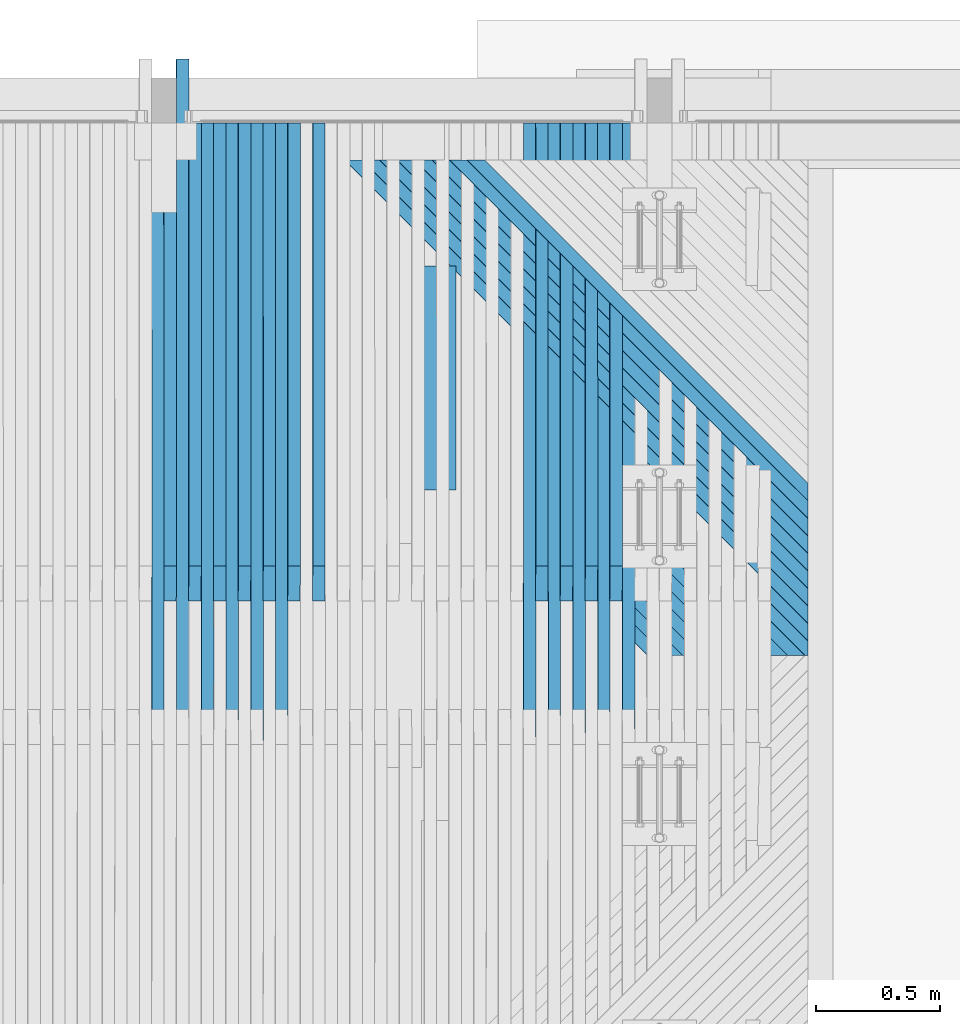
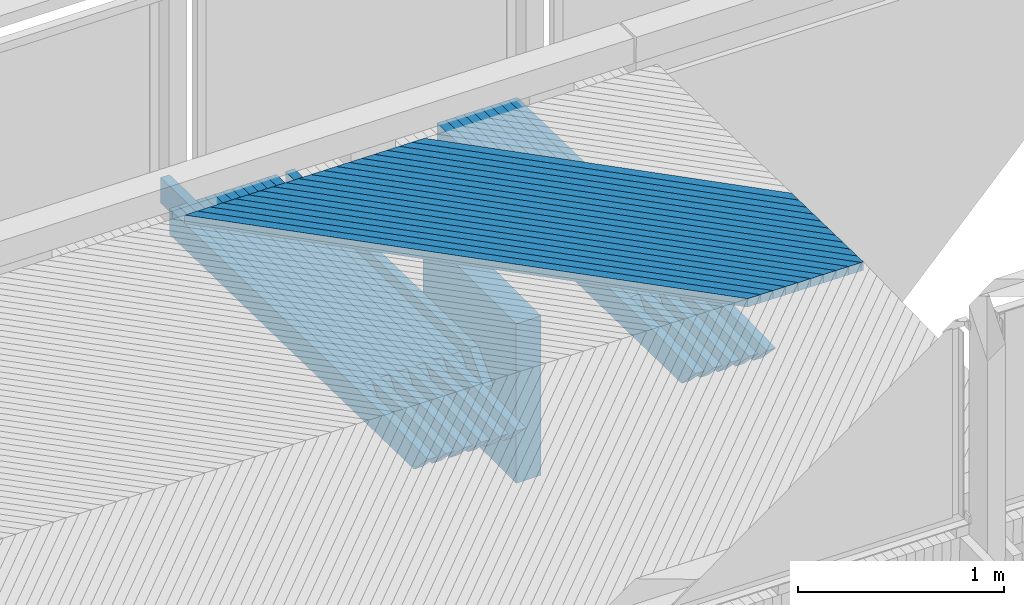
# One storey, part 45 of 65: 42 beams.
"""IFC2X3 building model written with IfcOpenShell, lengths in millimetres."""

from ifc_helpers import new_model, si_unit, frame, origin_with_axes, place, context, subcontext, project, spatial, faceted_brep, material, type_object, element, save


model = new_model("IFC2X3")

# Units and contexts
model_context = context("Model", 3, precision=1e-05, world=origin_with_axes())
body_context = subcontext(model_context, "Body", "Model", "MODEL_VIEW")
ifc_project = project(units=[si_unit("LENGTHUNIT", "METRE", prefix="MILLI"), si_unit("AREAUNIT", "SQUARE_METRE"), si_unit("VOLUMEUNIT", "CUBIC_METRE"), si_unit("MASSUNIT", "GRAM", prefix="KILO"), si_unit("TIMEUNIT", "SECOND"), si_unit("PLANEANGLEUNIT", "RADIAN"), si_unit("SOLIDANGLEUNIT", "STERADIAN"), si_unit("THERMODYNAMICTEMPERATUREUNIT", "DEGREE_CELSIUS"), si_unit("LUMINOUSINTENSITYUNIT", "LUMEN")], contexts=[model_context])

# Site, building, storey
site_placement = place(None, origin_with_axes())
site = spatial("IfcSite", under=ifc_project, at=site_placement, Name="Undefined", CompositionType="ELEMENT")
building_placement = place(site_placement, origin_with_axes())
building = spatial("IfcBuilding", under=site, at=building_placement, Name="Undefined", CompositionType="ELEMENT")
storey_placement = place(building_placement, origin_with_axes())
storey = spatial("IfcBuildingStorey", under=building, at=storey_placement, Name="Undefined", CompositionType="ELEMENT", Elevation=0.0)

# Beams
ifc_material = material(Name="TIMBER/Timber_Undefined")
beam_type_1 = type_object("IfcBeamType", Name="945*140", PredefinedType="NOTDEFINED")
beam_1_placement = place(storey_placement, frame((15109.0, 23937.5, 2500.4679002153), z_axis=(0.0, 0.0, 1.0), x_axis=(0.0, -1.0, 0.0)))
element("IfcBeam", 1, at=beam_1_placement, inside=storey, type_object=beam_type_1, material=ifc_material, Name="PALKKI", ObjectType="945*140", context=body_context, shape_type="Brep", body=[
    faceted_brep([(0.0, 70.0, -472.5), (0.0, 70.0, 472.5), (905.0, 70.0, 472.5), (905.0, 70.0, -472.5), (0.0, -70.0, 472.5), (905.0, -70.0, 472.5), (0.0, -70.0, -472.5), (905.0, -70.0, -472.5)], [[[0, 1, 2, 3]], [[1, 4, 5, 2]], [[4, 6, 7, 5]], [[6, 0, 3, 7]], [[5, 7, 3, 2]], [[6, 4, 1, 0]]]),
])
beam_type_2 = type_object("IfcBeamType", Name="50*50", PredefinedType="NOTDEFINED")
beam_2_placement = place(storey_placement, frame((17258.8677408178, 22365.4998996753, 3164.92933385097), z_axis=(0.706832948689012, 0.706981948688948, -0.0237425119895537), x_axis=(-0.707250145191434, 0.706948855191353, -0.00453302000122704)))
element("IfcBeam", 2, at=beam_2_placement, inside=storey, type_object=beam_type_2, material=ifc_material, Name="BEAM", ObjectType="50*50", context=body_context, shape_type="Brep", body=[
    faceted_brep([(2804.34067830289, -25.0, 25.0000000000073), (2854.34301907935, -24.9999999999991, -25.0000000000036), (2852.92877373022, 25.0000000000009, -25.0), (2802.92643296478, 25.0, 25.0), (957.056097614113, 24.9999999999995, 25.0000000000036), (956.096042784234, -25.0000000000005, 25.0000000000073), (906.125537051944, -25.0, -24.9999999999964), (907.085591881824, 24.9999999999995, -24.9999999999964)], [[[0, 1, 2, 3]], [[0, 3, 4, 5]], [[1, 0, 5, 6]], [[2, 1, 6, 7]], [[3, 2, 7, 4]], [[6, 5, 4, 7]]]),
])
beam_3_placement = place(storey_placement, frame((17188.1518059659, 22365.4998996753, 3166.01273338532), z_axis=(0.706835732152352, 0.706981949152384, -0.0236594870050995), x_axis=(-0.707249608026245, 0.706948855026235, -0.00461609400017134)))
element("IfcBeam", 3, at=beam_3_placement, inside=storey, type_object=beam_type_2, material=ifc_material, Name="BEAM", ObjectType="50*50", context=body_context, shape_type="Brep", body=[
    faceted_brep([(2804.34067830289, -25.0, 25.0000000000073), (2854.34301907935, -24.9999999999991, -25.0000000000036), (2852.92877373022, 25.0000000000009, -25.0), (2802.92643296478, 25.0, 25.0), (857.065534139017, 25.0000000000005, 24.9999999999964), (856.1137801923, -24.9999999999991, 24.9999999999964), (806.143039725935, -24.9999999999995, -25.0), (807.094793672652, 25.0, -25.0)], [[[0, 1, 2, 3]], [[0, 3, 4, 5]], [[1, 0, 5, 6]], [[2, 1, 6, 7]], [[3, 2, 7, 4]], [[6, 5, 4, 7]]]),
])
beam_4_placement = place(storey_placement, frame((17117.4357443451, 22365.4998996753, 3167.08782657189), z_axis=(0.706838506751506, 0.706981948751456, -0.0235764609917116), x_axis=(-0.707249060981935, 0.706948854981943, -0.00469916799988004)))
element("IfcBeam", 4, at=beam_4_placement, inside=storey, type_object=beam_type_2, material=ifc_material, Name="BEAM", ObjectType="50*50", context=body_context, shape_type="Brep", body=[
    faceted_brep([(2804.34067830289, -25.0, 25.0000000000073), (2854.34301907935, -24.9999999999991, -25.0000000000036), (2852.92877373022, 25.0000000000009, -25.0), (2802.92643296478, 25.0, 25.0), (757.074649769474, 25.0000000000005, 25.0000000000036), (756.131196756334, -25.0, 25.0000000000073), (706.160221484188, -24.9999999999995, -24.9999999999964), (707.103674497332, 25.0000000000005, -25.0)], [[[0, 1, 2, 3]], [[0, 3, 4, 5]], [[1, 0, 5, 6]], [[2, 1, 6, 7]], [[3, 2, 7, 4]], [[6, 5, 4, 7]]]),
])
beam_5_placement = place(storey_placement, frame((17046.7195569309, 22365.4998996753, 3168.15461339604), z_axis=(0.706841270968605, 0.706981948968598, -0.0234934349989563), x_axis=(-0.707248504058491, 0.706948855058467, -0.00478224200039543)))
element("IfcBeam", 5, at=beam_5_placement, inside=storey, type_object=beam_type_2, material=ifc_material, Name="BEAM", ObjectType="50*50", context=body_context, shape_type="Brep", body=[
    faceted_brep([(2804.34067830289, -25.0, 25.0000000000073), (2854.34301907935, -24.9999999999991, -25.0000000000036), (2852.92877373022, 25.0000000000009, -25.0), (2802.92643296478, 25.0, 25.0), (657.083441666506, 24.9999999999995, 24.9999999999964), (656.148289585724, -25.0, 24.9999999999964), (606.177079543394, -25.0, -25.0), (607.112231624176, 25.0, -25.0)], [[[0, 1, 2, 3]], [[0, 3, 4, 5]], [[1, 0, 5, 6]], [[2, 1, 6, 7]], [[3, 2, 7, 4]], [[6, 5, 4, 7]]]),
])
beam_6_placement = place(storey_placement, frame((16976.0032446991, 22365.4998996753, 3169.21309384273), z_axis=(0.70684402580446, 0.706981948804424, -0.0234104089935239), x_axis=(-0.707247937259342, 0.706948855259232, -0.00486531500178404)))
element("IfcBeam", 6, at=beam_6_placement, inside=storey, type_object=beam_type_2, material=ifc_material, Name="BEAM", ObjectType="50*50", context=body_context, shape_type="Brep", body=[
    faceted_brep([(2804.34067830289, -25.0, 25.0000000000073), (2854.34301907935, -24.9999999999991, -25.0000000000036), (2852.92877373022, 25.0000000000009, -25.0), (2802.92643296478, 25.0, 25.0), (557.091907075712, 25.0, 25.0), (556.165055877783, -25.0, 25.0000000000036), (506.193611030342, -25.0, -24.9999999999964), (507.120462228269, 25.0, -24.9999999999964)], [[[0, 1, 2, 3]], [[0, 3, 4, 5]], [[1, 0, 5, 6]], [[2, 1, 6, 7]], [[3, 2, 7, 4]], [[6, 5, 4, 7]]]),
])
beam_7_placement = place(storey_placement, frame((16905.2868086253, 22365.4998996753, 3170.26326789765), z_axis=(0.706846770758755, 0.70698194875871, -0.0233273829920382), x_axis=(-0.707247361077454, 0.706948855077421, -0.00494838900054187)))
element("IfcBeam", 7, at=beam_7_placement, inside=storey, type_object=beam_type_2, material=ifc_material, Name="BEAM", ObjectType="50*50", context=body_context, shape_type="Brep", body=[
    faceted_brep([(2804.34067830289, -25.0, 25.0000000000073), (2854.34301907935, -24.9999999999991, -25.0000000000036), (2852.92877373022, 25.0000000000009, -25.0), (2802.92643296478, 25.0, 25.0), (457.100042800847, 25.0000000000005, 25.0), (456.181492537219, -25.0, 25.0), (406.209812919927, -24.9999999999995, -25.0), (407.128363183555, 25.0000000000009, -25.0)], [[[0, 1, 2, 3]], [[0, 3, 4, 5]], [[1, 0, 5, 6]], [[2, 1, 6, 7]], [[3, 2, 7, 4]], [[6, 5, 4, 7]]]),
])
beam_8_placement = place(storey_placement, frame((16834.5702496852, 22365.4998996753, 3171.30513554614), z_axis=(0.706849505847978, 0.706981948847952, -0.023244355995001), x_axis=(-0.707246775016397, 0.70694885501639, -0.00503146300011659)))
element("IfcBeam", 8, at=beam_8_placement, inside=storey, type_object=beam_type_2, material=ifc_material, Name="BEAM", ObjectType="50*50", context=body_context, shape_type="Brep", body=[
    faceted_brep([(2804.34067830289, -25.0, 25.0000000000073), (2854.34301907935, -24.9999999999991, -25.0000000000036), (2852.92877373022, 25.0000000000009, -25.0), (2802.92643296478, 25.0, 25.0), (357.107846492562, 24.9999999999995, 24.9999999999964), (356.19759721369, -25.0000000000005, 24.9999999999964), (306.225682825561, -25.0000000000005, -25.0000000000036), (307.135932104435, 24.9999999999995, -25.0000000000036)], [[[0, 1, 2, 3]], [[0, 3, 4, 5]], [[1, 0, 5, 6]], [[2, 1, 6, 7]], [[3, 2, 7, 4]], [[6, 5, 4, 7]]]),
])
beam_9_placement = place(storey_placement, frame((16763.8535688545, 22365.4998996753, 3172.33869677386), z_axis=(0.706852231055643, 0.706981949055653, -0.0231613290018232), x_axis=(-0.707246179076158, 0.706948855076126, -0.0051145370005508)))
element("IfcBeam", 9, at=beam_9_placement, inside=storey, type_object=beam_type_2, material=ifc_material, Name="BEAM", ObjectType="50*50", context=body_context, shape_type="Brep", body=[
    faceted_brep([(2804.34067830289, -25.0, 25.0000000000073), (2854.34301907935, -24.9999999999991, -25.0000000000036), (2852.92877373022, 25.0000000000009, -25.0), (2802.92643296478, 25.0, 25.0), (257.115315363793, 25.0, 25.0), (256.213367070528, -25.0000000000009, 24.9999999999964), (206.241217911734, -25.0000000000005, -25.0), (207.143166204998, 25.0, -25.0)], [[[0, 1, 2, 3]], [[0, 3, 4, 5]], [[1, 0, 5, 6]], [[2, 1, 6, 7]], [[3, 2, 7, 4]], [[6, 5, 4, 7]]]),
])
beam_10_placement = place(storey_placement, frame((16693.1367671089, 22365.4998996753, 3173.36395156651), z_axis=(0.706854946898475, 0.706981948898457, -0.0230783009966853), x_axis=(-0.7072455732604, 0.706948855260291, -0.00519761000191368)))
element("IfcBeam", 10, at=beam_10_placement, inside=storey, type_object=beam_type_2, material=ifc_material, Name="BEAM", ObjectType="50*50", context=body_context, shape_type="Brep", body=[
    faceted_brep([(2804.34067830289, -25.0, 25.0000000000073), (2854.34301907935, -24.9999999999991, -25.0000000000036), (2852.92877373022, 25.0000000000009, -25.0), (2802.92643296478, 25.0, 25.0), (157.122446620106, 25.0000000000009, 24.9999999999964), (156.22879931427, -24.9999999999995, 25.0000000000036), (106.256415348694, -25.0, -25.0), (107.15006265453, 25.0, -24.9999999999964)], [[[0, 1, 2, 3]], [[0, 3, 4, 5]], [[1, 0, 5, 6]], [[2, 1, 6, 7]], [[3, 2, 7, 4]], [[6, 5, 4, 7]]]),
])
beam_11_placement = place(storey_placement, frame((16622.419845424, 22365.4998996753, 3174.38089991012), z_axis=(0.70685765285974, 0.706981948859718, -0.0229952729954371), x_axis=(-0.707244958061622, 0.706948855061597, -0.00528068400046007)))
element("IfcBeam", 11, at=beam_11_placement, inside=storey, type_object=beam_type_2, material=ifc_material, Name="BEAM", ObjectType="50*50", context=body_context, shape_type="Brep", body=[
    faceted_brep([(25.0011701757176, -25.0000000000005, -24.9999999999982), (23.5869248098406, 24.9999999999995, -24.9999999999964), (2852.92877373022, 25.0000000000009, -25.0), (2854.34301907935, -24.9999999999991, -25.0000000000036), (2804.34067830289, -25.0, 25.0000000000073), (2802.92643296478, 25.0, 25.0), (57.1292373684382, 25.0000000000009, 25.0000000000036), (56.2438911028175, -24.9999999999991, 25.0000000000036), (15.6334371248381, -24.9999999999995, -15.6327054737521), (15.3693294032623, 25.0000000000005, -16.7827892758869)], [[[0, 1, 2, 3]], [[4, 3, 2, 5]], [[4, 5, 6, 7]], [[0, 3, 4, 7, 8]], [[1, 0, 8, 9]], [[5, 2, 1, 9, 6]], [[8, 7, 6, 9]]]),
])
for number, where, z_axis, x_axis, name in (
    (12, (16551.7028047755, 22365.4998996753, 3175.38954179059), (0.706860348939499, 0.70698194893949, -0.0229122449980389), (-0.707244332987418, 0.706948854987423, -0.00536375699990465), "BEAM"),
    (13, (16480.9856461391, 22365.4998996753, 3176.38987719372), (0.706863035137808, 0.706981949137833, -0.0228292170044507), (-0.707243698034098, 0.706948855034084, -0.00544683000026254), "BEAM"),
    (14, (16410.2683704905, 22365.4998996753, 3177.38190610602), (0.706865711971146, 0.706981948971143, -0.0227461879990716), (-0.707243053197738, 0.706948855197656, -0.00552990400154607), "BEAM"),
    (15, (16339.5509788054, 22365.4998996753, 3178.36562851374), (0.706868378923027, 0.706981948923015, -0.0226631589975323), (-0.707242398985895, 0.7069488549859, -0.00561297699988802), "BEAM"),
    (16, (16268.8334720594, 22365.4998996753, 3179.34104440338), (0.706871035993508, 0.706981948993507, -0.0225801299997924), (-0.707241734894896, 0.706948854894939, -0.00569604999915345), "BEAM"),
    (17, (16198.1158512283, 22365.4998996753, 3180.30815376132), (0.706873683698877, 0.706981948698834, -0.0224970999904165), (-0.707241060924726, 0.706948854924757, -0.00577912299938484), "BEAM"),
    (18, (16127.3981172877, 22365.4998996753, 3181.26695657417), (0.706876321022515, 0.706981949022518, -0.0224140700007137), (-0.707240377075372, 0.706948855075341, -0.00586219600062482), "BEAM"),
    (19, (16056.6802712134, 22365.4998996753, 3182.21745282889), (0.706878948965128, 0.706981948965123, -0.0223310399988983), (-0.70723968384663, 0.706948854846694, -0.00594526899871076), "BEAM"),
    (20, (15985.962313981, 22365.4998996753, 3183.15964251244), (0.706881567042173, 0.706981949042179, -0.0222480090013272), (-0.707238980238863, 0.706948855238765, -0.00602834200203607), "BEAM"),
):
    element("IfcBeam", number, at=place(storey_placement, frame(where, z_axis=z_axis, x_axis=x_axis)), inside=storey, type_object=beam_type_2, material=ifc_material, Name=name, ObjectType="50*50", context=body_context, shape_type="Brep", body=[
        faceted_brep([(23.5869248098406, 24.9999999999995, -24.9999999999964), (-26.4154158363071, 24.9999999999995, 24.9999999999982), (2802.92643296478, 25.0, 25.0), (2852.92877373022, 25.0000000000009, -25.0), (-25.0011704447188, -25.0, 24.9999999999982), (2804.34067830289, -25.0, 25.0000000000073), (25.0011701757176, -25.0000000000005, -24.9999999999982), (2854.34301907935, -24.9999999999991, -25.0000000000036)], [[[0, 1, 2, 3]], [[1, 4, 5, 2]], [[4, 6, 7, 5]], [[6, 0, 3, 7]], [[5, 7, 3, 2]], [[6, 4, 1, 0]]]),
    ])
beam_type_3 = type_object("IfcBeamType", Name="150*50", PredefinedType="NOTDEFINED")
for number, where, z_axis, x_axis, name in (
    (21, (15874.7290061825, 24513.4953923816, 3041.62863633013), (0.0130016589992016, 0.0199960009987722, 0.999715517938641), (0.000260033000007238, -0.999800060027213, 0.0199943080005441), "BEAM"),
    (22, (15774.717424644, 24513.4953923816, 3042.92875591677), (0.0128355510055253, 0.019996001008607, 0.999717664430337), (0.000256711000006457, -0.999800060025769, 0.0199943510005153), "BEAM"),
):
    element("IfcBeam", number, at=place(storey_placement, frame(where, z_axis=z_axis, x_axis=x_axis)), inside=storey, type_object=beam_type_3, material=ifc_material, Name=name, ObjectType="150*50", context=body_context, shape_type="Brep", body=[
        faceted_brep([(-1.6778358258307e-07, -24.9999999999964, -74.9999999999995), (-1.6778358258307e-07, 25.0000000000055, -75.0), (2375.00494422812, 25.0000000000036, -75.0), (2375.00494447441, -24.9999999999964, -74.9999999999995), (1.67790858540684e-07, -24.9999999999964, 75.0000000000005), (1.67790858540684e-07, 25.0000000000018, 74.9999999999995), (2150.42515052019, 25.0000000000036, 74.9999999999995), (2510.59248715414, 25.0000000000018, 60.5875433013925), (2510.59248714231, -24.9999999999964, 60.5875430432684), (2150.42514405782, -24.9999999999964, 75.0000000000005)], [[[0, 1, 2, 3]], [[0, 4, 5, 1]], [[2, 1, 5, 6, 7]], [[3, 2, 7, 8]], [[4, 0, 3, 8, 9]], [[5, 4, 9, 6]], [[8, 7, 6, 9]]]),
    ])
beam_12_placement = place(storey_placement, frame((15824.7332279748, 24513.4953923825, 3042.27828425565), z_axis=(0.0130016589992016, 0.0199960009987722, 0.999715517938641), x_axis=(0.000260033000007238, -0.999800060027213, 0.0199943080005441)))
element("IfcBeam", 23, at=beam_12_placement, inside=storey, type_object=beam_type_3, material=ifc_material, Name="BEAM", ObjectType="150*50", context=body_context, shape_type="Brep", body=[
    faceted_brep([(-1.6778358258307e-07, -24.9999999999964, -74.9999999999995), (1.67790858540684e-07, -24.9999999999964, 75.0000000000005), (1.67790858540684e-07, 25.0000000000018, 74.9999999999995), (-1.6778358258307e-07, 25.0000000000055, -75.0), (1789.96936408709, 24.9999999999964, 75.0), (1928.42646328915, 24.9999999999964, -75.0), (1928.42646353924, -25.0, -75.0000000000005), (1789.96936433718, -25.0000000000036, 74.9999999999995)], [[[0, 1, 2, 3]], [[3, 2, 4, 5]], [[0, 3, 5, 6]], [[1, 0, 6, 7]], [[2, 1, 7, 4]], [[5, 4, 7, 6]]]),
])
beam_13_placement = place(storey_placement, frame((15674.7056284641, 24513.4953923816, 3044.21225802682), z_axis=(0.012669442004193, 0.0199960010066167, 0.999719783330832), x_axis=(0.000253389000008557, -0.99980006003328, 0.0199943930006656)))
element("IfcBeam", 24, at=beam_13_placement, inside=storey, type_object=beam_type_3, material=ifc_material, Name="BEAM", ObjectType="150*50", context=body_context, shape_type="Brep", body=[
    faceted_brep([(-1.6778358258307e-07, -24.9999999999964, -74.9999999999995), (-1.6778358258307e-07, 25.0000000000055, -75.0), (2375.00494422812, 25.0000000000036, -75.0), (2375.00494447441, -24.9999999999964, -74.9999999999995), (1.67790858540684e-07, -24.9999999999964, 75.0000000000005), (1.67790858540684e-07, 25.0000000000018, 74.9999999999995), (2150.42515052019, 25.0000000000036, 74.9999999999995), (2510.59248715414, 25.0000000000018, 60.5875433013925), (2510.59248714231, -24.9999999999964, 60.5875430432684), (2150.42514405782, -24.9999999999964, 75.0000000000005)], [[[0, 1, 2, 3]], [[0, 4, 5, 1]], [[2, 1, 5, 6, 7]], [[3, 2, 7, 8]], [[4, 0, 3, 8, 9]], [[5, 4, 9, 6]], [[8, 7, 6, 9]]]),
])
beam_14_placement = place(storey_placement, frame((15724.7215391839, 24513.4953923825, 3043.57009676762), z_axis=(0.0128355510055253, 0.019996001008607, 0.999717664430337), x_axis=(0.000256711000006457, -0.999800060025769, 0.0199943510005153)))
element("IfcBeam", 25, at=beam_14_placement, inside=storey, type_object=beam_type_3, material=ifc_material, Name="BEAM", ObjectType="150*50", context=body_context, shape_type="Brep", body=[
    faceted_brep([(-1.6778358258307e-07, -24.9999999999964, -74.9999999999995), (1.67790858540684e-07, -24.9999999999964, 75.0000000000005), (1.67790858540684e-07, 25.0000000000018, 74.9999999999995), (-1.6778358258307e-07, 25.0000000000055, -75.0), (1789.96936408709, 24.9999999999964, 75.0), (1928.42646328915, 24.9999999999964, -75.0), (1928.42646353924, -25.0, -75.0000000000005), (1789.96936433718, -25.0000000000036, 74.9999999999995)], [[[0, 1, 2, 3]], [[3, 2, 4, 5]], [[0, 3, 5, 6]], [[1, 0, 6, 7]], [[2, 1, 7, 4]], [[5, 4, 7, 6]]]),
])
beam_15_placement = place(storey_placement, frame((15574.6936204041, 24513.4953923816, 3045.47914262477), z_axis=(0.0125033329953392, 0.0199960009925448, 0.999721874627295), x_axis=(0.000250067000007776, -0.999800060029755, 0.0199944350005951)))
element("IfcBeam", 26, at=beam_15_placement, inside=storey, type_object=beam_type_3, material=ifc_material, Name="BEAM", ObjectType="150*50", context=body_context, shape_type="Brep", body=[
    faceted_brep([(-1.6778358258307e-07, -24.9999999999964, -74.9999999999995), (-1.6778358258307e-07, 25.0000000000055, -75.0), (2375.00494422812, 25.0000000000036, -75.0), (2375.00494447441, -24.9999999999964, -74.9999999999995), (1.67790858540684e-07, -24.9999999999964, 75.0000000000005), (1.67790858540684e-07, 25.0000000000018, 74.9999999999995), (2150.42515052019, 25.0000000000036, 74.9999999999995), (2510.59248715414, 25.0000000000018, 60.5875433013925), (2510.59248714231, -24.9999999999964, 60.5875430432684), (2150.42514405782, -24.9999999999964, 75.0000000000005)], [[[0, 1, 2, 3]], [[0, 4, 5, 1]], [[2, 1, 5, 6, 7]], [[3, 2, 7, 8]], [[4, 0, 3, 8, 9]], [[5, 4, 9, 6]], [[8, 7, 6, 9]]]),
])
beam_16_placement = place(storey_placement, frame((15624.7096371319, 24513.4953923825, 3044.8452917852), z_axis=(0.012669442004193, 0.0199960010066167, 0.999719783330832), x_axis=(0.000253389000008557, -0.99980006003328, 0.0199943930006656)))
element("IfcBeam", 27, at=beam_16_placement, inside=storey, type_object=beam_type_3, material=ifc_material, Name="BEAM", ObjectType="150*50", context=body_context, shape_type="Brep", body=[
    faceted_brep([(-1.6778358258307e-07, -24.9999999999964, -74.9999999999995), (1.67790858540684e-07, -24.9999999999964, 75.0000000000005), (1.67790858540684e-07, 25.0000000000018, 74.9999999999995), (-1.6778358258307e-07, 25.0000000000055, -75.0), (1789.96936408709, 24.9999999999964, 75.0), (1928.42646328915, 24.9999999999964, -75.0), (1928.42646353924, -25.0, -75.0000000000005), (1789.96936433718, -25.0000000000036, 74.9999999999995)], [[[0, 1, 2, 3]], [[3, 2, 4, 5]], [[0, 3, 5, 6]], [[1, 0, 6, 7]], [[2, 1, 7, 4]], [[5, 4, 7, 6]]]),
])
beam_17_placement = place(storey_placement, frame((15474.6814032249, 24513.4953923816, 3046.72940967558), z_axis=(0.0123372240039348, 0.0199960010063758, 0.999723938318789), x_axis=(0.000246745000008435, -0.999800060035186, 0.0199944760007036)))
element("IfcBeam", 28, at=beam_17_placement, inside=storey, type_object=beam_type_3, material=ifc_material, Name="BEAM", ObjectType="150*50", context=body_context, shape_type="Brep", body=[
    faceted_brep([(-1.6778358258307e-07, -24.9999999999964, -74.9999999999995), (-1.6778358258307e-07, 25.0000000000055, -75.0), (2375.00494422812, 25.0000000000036, -75.0), (2375.00494447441, -24.9999999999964, -74.9999999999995), (1.67790858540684e-07, -24.9999999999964, 75.0000000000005), (1.67790858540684e-07, 25.0000000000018, 74.9999999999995), (2150.42515052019, 25.0000000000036, 74.9999999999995), (2510.59248715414, 25.0000000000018, 60.5875433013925), (2510.59248714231, -24.9999999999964, 60.5875430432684), (2150.42514405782, -24.9999999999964, 75.0000000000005)], [[[0, 1, 2, 3]], [[0, 4, 5, 1]], [[2, 1, 5, 6, 7]], [[3, 2, 7, 8]], [[4, 0, 3, 8, 9]], [[5, 4, 9, 6]], [[8, 7, 6, 9]]]),
])
for number, where, z_axis, x_axis, name in (
    (29, (15524.6975245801, 24513.4953923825, 3046.10386927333), (0.0125033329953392, 0.0199960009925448, 0.999721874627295), (0.000250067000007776, -0.999800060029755, 0.0199944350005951), "BEAM"),
    (30, (14624.5794946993, 24513.4953923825, 3056.68327225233), (0.0110083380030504, 0.0199960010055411, 0.999739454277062), (0.000220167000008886, -0.999800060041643, 0.0199947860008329), "BEAM"),
):
    element("IfcBeam", number, at=place(storey_placement, frame(where, z_axis=z_axis, x_axis=x_axis)), inside=storey, type_object=beam_type_3, material=ifc_material, Name=name, ObjectType="150*50", context=body_context, shape_type="Brep", body=[
        faceted_brep([(-1.6778358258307e-07, -24.9999999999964, -74.9999999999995), (1.67790858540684e-07, -24.9999999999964, 75.0000000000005), (1.67790858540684e-07, 25.0000000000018, 74.9999999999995), (-1.6778358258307e-07, 25.0000000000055, -75.0), (1789.96936408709, 24.9999999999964, 75.0), (1928.42646328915, 24.9999999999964, -75.0), (1928.42646353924, -25.0, -75.0000000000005), (1789.96936433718, -25.0000000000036, 74.9999999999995)], [[[0, 1, 2, 3]], [[3, 2, 4, 5]], [[0, 3, 5, 6]], [[1, 0, 6, 7]], [[2, 1, 7, 4]], [[5, 4, 7, 6]]]),
    ])
beam_18_placement = place(storey_placement, frame((14474.5483373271, 24513.4953923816, 3058.31810772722), z_axis=(0.0106761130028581, 0.0199960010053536, 0.999743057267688), x_axis=(0.000213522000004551, -0.999800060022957, 0.0199948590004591)))
element("IfcBeam", 31, at=beam_18_placement, inside=storey, type_object=beam_type_3, material=ifc_material, Name="BEAM", ObjectType="150*50", context=body_context, shape_type="Brep", body=[
    faceted_brep([(-1.6778358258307e-07, -24.9999999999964, -74.9999999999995), (-1.6778358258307e-07, 25.0000000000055, -75.0), (2375.00494422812, 25.0000000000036, -75.0), (2375.00494447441, -24.9999999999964, -74.9999999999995), (1.67790858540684e-07, -24.9999999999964, 75.0000000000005), (1.67790858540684e-07, 25.0000000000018, 74.9999999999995), (2150.42515052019, 25.0000000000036, 74.9999999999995), (2510.59248715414, 25.0000000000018, 60.5875433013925), (2510.59248714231, -24.9999999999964, 60.5875430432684), (2150.42514405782, -24.9999999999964, 75.0000000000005)], [[[0, 1, 2, 3]], [[0, 4, 5, 1]], [[2, 1, 5, 6, 7]], [[3, 2, 7, 8]], [[4, 0, 3, 8, 9]], [[5, 4, 9, 6]], [[8, 7, 6, 9]]]),
])
beam_19_placement = place(storey_placement, frame((14524.5654290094, 24513.4953923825, 3057.77567260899), z_axis=(0.0108422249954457, 0.0199960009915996, 0.999741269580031), x_axis=(0.000216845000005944, -0.999800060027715, 0.0199948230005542)))
element("IfcBeam", 32, at=beam_19_placement, inside=storey, type_object=beam_type_3, material=ifc_material, Name="BEAM", ObjectType="150*50", context=body_context, shape_type="Brep", body=[
    faceted_brep([(-1.6778358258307e-07, -24.9999999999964, -74.9999999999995), (1.67790858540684e-07, -24.9999999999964, 75.0000000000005), (1.67790858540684e-07, 25.0000000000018, 74.9999999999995), (-1.6778358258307e-07, 25.0000000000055, -75.0), (1789.96936408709, 24.9999999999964, 75.0), (1928.42646328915, 24.9999999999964, -75.0), (1928.42646353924, -25.0, -75.0000000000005), (1789.96936433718, -25.0000000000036, 74.9999999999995)], [[[0, 1, 2, 3]], [[3, 2, 4, 5]], [[0, 3, 5, 6]], [[1, 0, 6, 7]], [[2, 1, 7, 4]], [[5, 4, 7, 6]]]),
])
beam_20_placement = place(storey_placement, frame((14374.5340020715, 24513.4953923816, 3059.38557958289), z_axis=(0.0105100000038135, 0.0199960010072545, 0.99974481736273), x_axis=(0.000210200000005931, -0.999800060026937, 0.0199948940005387)))
element("IfcBeam", 33, at=beam_20_placement, inside=storey, type_object=beam_type_3, material=ifc_material, Name="BEAM", ObjectType="150*50", context=body_context, shape_type="Brep", body=[
    faceted_brep([(-1.6778358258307e-07, -24.9999999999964, -74.9999999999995), (-1.6778358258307e-07, 25.0000000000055, -75.0), (2375.00494422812, 25.0000000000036, -75.0), (2375.00494447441, -24.9999999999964, -74.9999999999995), (1.67790858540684e-07, -24.9999999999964, 75.0000000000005), (1.67790858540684e-07, 25.0000000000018, 74.9999999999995), (2150.42515052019, 25.0000000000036, 74.9999999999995), (2510.59248715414, 25.0000000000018, 60.5875433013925), (2510.59248714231, -24.9999999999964, 60.5875430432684), (2150.42514405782, -24.9999999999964, 75.0000000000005)], [[[0, 1, 2, 3]], [[0, 4, 5, 1]], [[2, 1, 5, 6, 7]], [[3, 2, 7, 8]], [[4, 0, 3, 8, 9]], [[5, 4, 9, 6]], [[8, 7, 6, 9]]]),
])
beam_21_placement = place(storey_placement, frame((14424.5511831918, 24513.4953923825, 3058.85145507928), z_axis=(0.0106761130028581, 0.0199960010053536, 0.999743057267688), x_axis=(0.000213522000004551, -0.999800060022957, 0.0199948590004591)))
element("IfcBeam", 34, at=beam_21_placement, inside=storey, type_object=beam_type_3, material=ifc_material, Name="BEAM", ObjectType="150*50", context=body_context, shape_type="Brep", body=[
    faceted_brep([(-1.6778358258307e-07, -24.9999999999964, -74.9999999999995), (1.67790858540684e-07, -24.9999999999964, 75.0000000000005), (1.67790858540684e-07, 25.0000000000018, 74.9999999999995), (-1.6778358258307e-07, 25.0000000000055, -75.0), (1789.96936408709, 24.9999999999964, 75.0), (1928.42646328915, 24.9999999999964, -75.0), (1928.42646353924, -25.0, -75.0000000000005), (1789.96936433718, -25.0000000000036, 74.9999999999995)], [[[0, 1, 2, 3]], [[3, 2, 4, 5]], [[0, 3, 5, 6]], [[1, 0, 6, 7]], [[2, 1, 7, 4]], [[5, 4, 7, 6]]]),
])
beam_22_placement = place(storey_placement, frame((14274.5194908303, 24513.4953923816, 3060.43643350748), z_axis=(0.010343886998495, 0.0199960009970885, 0.999746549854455), x_axis=(0.000206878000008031, -0.999800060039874, 0.0199949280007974)))
element("IfcBeam", 35, at=beam_22_placement, inside=storey, type_object=beam_type_3, material=ifc_material, Name="BEAM", ObjectType="150*50", context=body_context, shape_type="Brep", body=[
    faceted_brep([(-1.6778358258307e-07, -24.9999999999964, -74.9999999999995), (-1.6778358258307e-07, 25.0000000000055, -75.0), (2375.00494422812, 25.0000000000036, -75.0), (2375.00494447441, -24.9999999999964, -74.9999999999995), (1.67790858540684e-07, -24.9999999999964, 75.0000000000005), (1.67790858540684e-07, 25.0000000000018, 74.9999999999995), (2150.42515052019, 25.0000000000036, 74.9999999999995), (2510.59248715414, 25.0000000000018, 60.5875433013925), (2510.59248714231, -24.9999999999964, 60.5875430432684), (2150.42514405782, -24.9999999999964, 75.0000000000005)], [[[0, 1, 2, 3]], [[0, 4, 5, 1]], [[2, 1, 5, 6, 7]], [[3, 2, 7, 8]], [[4, 0, 3, 8, 9]], [[5, 4, 9, 6]], [[8, 7, 6, 9]]]),
])
beam_23_placement = place(storey_placement, frame((14324.5367600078, 24513.4953923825, 3059.91061963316), z_axis=(0.0105100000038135, 0.0199960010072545, 0.99974481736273), x_axis=(0.000210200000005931, -0.999800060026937, 0.0199948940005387)))
element("IfcBeam", 36, at=beam_23_placement, inside=storey, type_object=beam_type_3, material=ifc_material, Name="BEAM", ObjectType="150*50", context=body_context, shape_type="Brep", body=[
    faceted_brep([(-1.6778358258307e-07, -24.9999999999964, -74.9999999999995), (1.67790858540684e-07, -24.9999999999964, 75.0000000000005), (1.67790858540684e-07, 25.0000000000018, 74.9999999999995), (-1.6778358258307e-07, 25.0000000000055, -75.0), (1789.96936408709, 24.9999999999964, 75.0), (1928.42646328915, 24.9999999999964, -75.0), (1928.42646353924, -25.0, -75.0000000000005), (1789.96936433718, -25.0000000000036, 74.9999999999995)], [[[0, 1, 2, 3]], [[3, 2, 4, 5]], [[0, 3, 5, 6]], [[1, 0, 6, 7]], [[2, 1, 7, 4]], [[5, 4, 7, 6]]]),
])
beam_24_placement = place(storey_placement, frame((14174.5048063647, 24513.4953923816, 3061.47066947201), z_axis=(0.0101777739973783, 0.0199960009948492, 0.999748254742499), x_axis=(0.00020355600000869, -0.999800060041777, 0.0199949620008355)))
element("IfcBeam", 37, at=beam_24_placement, inside=storey, type_object=beam_type_3, material=ifc_material, Name="BEAM", ObjectType="150*50", context=body_context, shape_type="Brep", body=[
    faceted_brep([(-1.6778358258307e-07, -24.9999999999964, -74.9999999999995), (-1.6778358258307e-07, 25.0000000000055, -75.0), (2375.00494422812, 25.0000000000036, -75.0), (2375.00494447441, -24.9999999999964, -74.9999999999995), (1.67790858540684e-07, -24.9999999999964, 75.0000000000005), (1.67790858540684e-07, 25.0000000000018, 74.9999999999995), (2150.42515052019, 25.0000000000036, 74.9999999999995), (2510.59248715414, 25.0000000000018, 60.5875433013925), (2510.59248714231, -24.9999999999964, 60.5875430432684), (2150.42514405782, -24.9999999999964, 75.0000000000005)], [[[0, 1, 2, 3]], [[0, 4, 5, 1]], [[2, 1, 5, 6, 7]], [[3, 2, 7, 8]], [[4, 0, 3, 8, 9]], [[5, 4, 9, 6]], [[8, 7, 6, 9]]]),
])
for number, where, z_axis, x_axis, name in (
    (38, (14224.5221622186, 24513.4953923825, 3060.95316624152), (0.010343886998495, 0.0199960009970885, 0.999746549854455), (0.000206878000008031, -0.999800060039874, 0.0199949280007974), "BEAM"),
    (39, (14124.5073925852, 24513.4953923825, 3061.97909487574), (0.0101777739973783, 0.0199960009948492, 0.999748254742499), (0.00020355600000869, -0.999800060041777, 0.0199949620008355), "BEAM"),
):
    element("IfcBeam", number, at=place(storey_placement, frame(where, z_axis=z_axis, x_axis=x_axis)), inside=storey, type_object=beam_type_3, material=ifc_material, Name=name, ObjectType="150*50", context=body_context, shape_type="Brep", body=[
        faceted_brep([(-1.6778358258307e-07, -24.9999999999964, -74.9999999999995), (1.67790858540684e-07, -24.9999999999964, 75.0000000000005), (1.67790858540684e-07, 25.0000000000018, 74.9999999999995), (-1.6778358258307e-07, 25.0000000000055, -75.0), (1789.96936408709, 24.9999999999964, 75.0), (1928.42646328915, 24.9999999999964, -75.0), (1928.42646353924, -25.0, -75.0000000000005), (1789.96936433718, -25.0000000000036, 74.9999999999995)], [[[0, 1, 2, 3]], [[3, 2, 4, 5]], [[0, 3, 5, 6]], [[1, 0, 6, 7]], [[2, 1, 7, 4]], [[5, 4, 7, 6]]]),
    ])
beam_25_placement = place(storey_placement, frame((13974.4749288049, 24513.4953923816, 3063.48928740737), z_axis=(0.00984554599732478, 0.0199960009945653, 0.999751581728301), x_axis=(0.000196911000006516, -0.999800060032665, 0.0199950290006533)))
element("IfcBeam", 40, at=beam_25_placement, inside=storey, type_object=beam_type_3, material=ifc_material, Name="BEAM", ObjectType="150*50", context=body_context, shape_type="Brep", body=[
    faceted_brep([(-1.6778358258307e-07, -24.9999999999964, -74.9999999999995), (-1.6778358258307e-07, 25.0000000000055, -75.0), (2375.00494422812, 25.0000000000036, -75.0), (2375.00494447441, -24.9999999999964, -74.9999999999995), (1.67790858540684e-07, -24.9999999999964, 75.0000000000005), (1.67790858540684e-07, 25.0000000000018, 74.9999999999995), (2150.42515052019, 25.0000000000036, 74.9999999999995), (2510.59248715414, 25.0000000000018, 60.5875433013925), (2510.59248714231, -24.9999999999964, 60.5875430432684), (2150.42514405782, -24.9999999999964, 75.0000000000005)], [[[0, 1, 2, 3]], [[0, 4, 5, 1]], [[2, 1, 5, 6, 7]], [[3, 2, 7, 8]], [[4, 0, 3, 8, 9]], [[5, 4, 9, 6]], [[8, 7, 6, 9]]]),
])
beam_26_placement = place(storey_placement, frame((14024.4924538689, 24513.4953923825, 3062.98840550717), z_axis=(0.0100116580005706, 0.0199960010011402, 0.999749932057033), x_axis=(0.000200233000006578, -0.999800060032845, 0.0199949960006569)))
element("IfcBeam", 41, at=beam_26_placement, inside=storey, type_object=beam_type_3, material=ifc_material, Name="BEAM", ObjectType="150*50", context=body_context, shape_type="Brep", body=[
    faceted_brep([(-1.6778358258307e-07, -24.9999999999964, -74.9999999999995), (1.67790858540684e-07, -24.9999999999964, 75.0000000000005), (1.67790858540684e-07, 25.0000000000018, 74.9999999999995), (-1.6778358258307e-07, 25.0000000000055, -75.0), (1789.96936408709, 24.9999999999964, 75.0), (1928.42646328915, 24.9999999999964, -75.0), (1928.42646353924, -25.0, -75.0000000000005), (1789.96936433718, -25.0000000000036, 74.9999999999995)], [[[0, 1, 2, 3]], [[3, 2, 4, 5]], [[0, 3, 5, 6]], [[1, 0, 6, 7]], [[2, 1, 7, 4]], [[5, 4, 7, 6]]]),
])
beam_27_placement = place(storey_placement, frame((14074.7028561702, 24771.443807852, 3057.32979143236), z_axis=(0.010010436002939, 0.0199960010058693, 0.999749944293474), x_axis=(0.000200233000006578, -0.999800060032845, 0.0199949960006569)))
element("IfcBeam", 42, at=beam_27_placement, inside=storey, type_object=beam_type_3, material=ifc_material, Name="BEAM", ObjectType="150*50", context=body_context, shape_type="Brep", body=[
    faceted_brep([(-1.6778358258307e-07, -24.9999999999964, -74.9999999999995), (-1.6778358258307e-07, 25.0000000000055, -75.0), (2633.00494750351, 24.9999999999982, -74.9999999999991), (2633.00494763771, -25.0000000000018, -74.9999999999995), (1.67790858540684e-07, -24.9999999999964, 75.0000000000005), (1.67790858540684e-07, 25.0000000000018, 74.9999999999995), (2408.42506824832, 24.9999999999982, 75.0000000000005), (2768.59248710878, 24.9999999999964, 60.587539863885), (2768.59248713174, -25.0000000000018, 60.5875397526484), (2408.42506549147, -25.0000000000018, 75.0000000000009)], [[[0, 1, 2, 3]], [[0, 4, 5, 1]], [[2, 1, 5, 6, 7]], [[3, 2, 7, 8]], [[4, 0, 3, 8, 9]], [[5, 4, 9, 6]], [[8, 7, 6, 9]]]),
])

save(model, "model.ifc")
